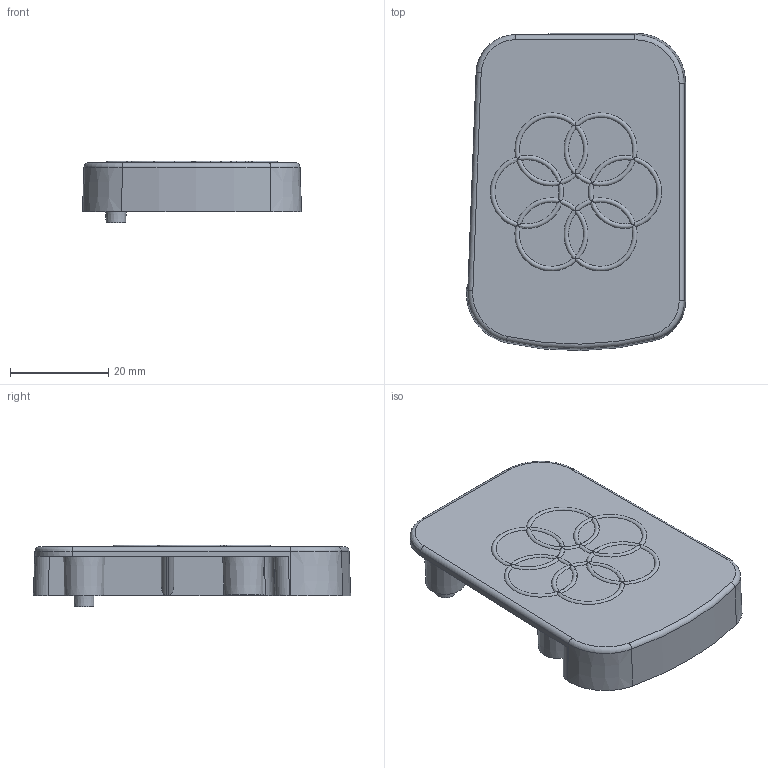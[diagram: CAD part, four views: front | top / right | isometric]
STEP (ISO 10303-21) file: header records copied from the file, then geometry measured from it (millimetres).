
FILE_DESCRIPTION(/* description */ (''),/* implementation_level */ '2;1');
FILE_NAME(/* name */ 'E:\塑料模具\现代模具制造技术\车钥匙\车钥匙下盖.stp',/* time_stamp */ '2021-12-02T16:02:10+08:00',/* author */ ('Administrator'),/* organization */ (''),/* preprocessor_version */ 'ST-DEVELOPER v18',/* originating_system */ 'Autodesk Inventor 2020',/* authorisation */ '');
FILE_SCHEMA (('AUTOMOTIVE_DESIGN { 1 0 10303 214 3 1 1 }'));
Length unit declared in the file: millimetre
Products named in the file (1): 下2
Bounding box: 44.68 x 64.69 x 12.6 mm (x, y, z)
Volume: 9390.8 mm3; surface area: 9301.6 mm2
Topology: 1 solids, 1 shells, 93 faces, 237 edges, 152 vertices
Faces by surface type: plane 38, torus 27, cone 15, cylinder 10, bspline 3
Entity records: 3471 total; most frequent: CARTESIAN_POINT 1194, ORIENTED_EDGE 474, DIRECTION 474, EDGE_CURVE 237, AXIS2_PLACEMENT_3D 199, VERTEX_POINT 152, EDGE_LOOP 99, FACE_OUTER_BOUND 93
